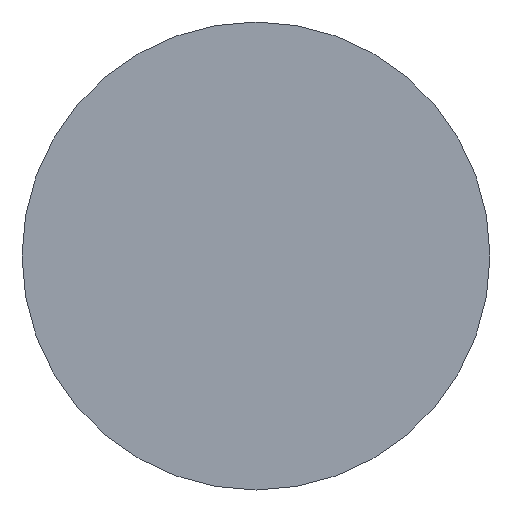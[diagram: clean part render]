
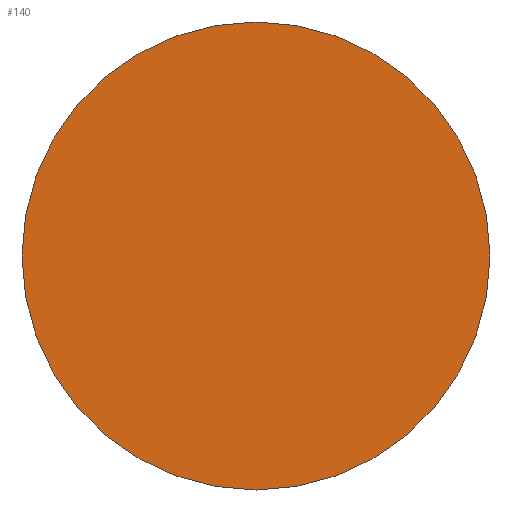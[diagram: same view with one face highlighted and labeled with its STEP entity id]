
A CAD part, front view. The second image highlights one B-rep face of the part: STEP entity #140.
In plain terms, the highlighted planar face has unit normal (0, -1, 0).
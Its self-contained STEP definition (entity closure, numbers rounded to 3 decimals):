
#31 = CYLINDRICAL_SURFACE('',#32,6.2);
#32 = AXIS2_PLACEMENT_3D('',#33,#34,#35);
#33 = CARTESIAN_POINT('',(-248.5,-108.5,33.));
#34 = DIRECTION('',(0.,1.,0.));
#35 = DIRECTION('',(0.,-0.,1.));
#56 = VERTEX_POINT('',#57);
#57 = CARTESIAN_POINT('',(-248.5,-108.5,39.2));
#78 = EDGE_CURVE('',#56,#56,#79,.T.);
#79 = SURFACE_CURVE('',#80,(#85,#92),.PCURVE_S1.);
#80 = CIRCLE('',#81,6.2);
#81 = AXIS2_PLACEMENT_3D('',#82,#83,#84);
#82 = CARTESIAN_POINT('',(-248.5,-108.5,33.));
#83 = DIRECTION('',(0.,1.,0.));
#84 = DIRECTION('',(0.,-0.,1.));
#85 = PCURVE('',#31,#86);
#86 = DEFINITIONAL_REPRESENTATION('',(#87),#91);
#87 = LINE('',#88,#89);
#88 = CARTESIAN_POINT('',(0.,0.));
#89 = VECTOR('',#90,1.);
#90 = DIRECTION('',(1.,0.));
#91 = ( GEOMETRIC_REPRESENTATION_CONTEXT(2) 
PARAMETRIC_REPRESENTATION_CONTEXT() REPRESENTATION_CONTEXT('2D SPACE',''
  ) );
#92 = PCURVE('',#93,#98);
#93 = PLANE('',#94);
#94 = AXIS2_PLACEMENT_3D('',#95,#96,#97);
#95 = CARTESIAN_POINT('',(-248.5,-108.5,33.));
#96 = DIRECTION('',(0.,1.,0.));
#97 = DIRECTION('',(0.,-0.,1.));
#98 = DEFINITIONAL_REPRESENTATION('',(#99),#103);
#99 = CIRCLE('',#100,6.2);
#100 = AXIS2_PLACEMENT_2D('',#101,#102);
#101 = CARTESIAN_POINT('',(0.,0.));
#102 = DIRECTION('',(1.,0.));
#103 = ( GEOMETRIC_REPRESENTATION_CONTEXT(2) 
PARAMETRIC_REPRESENTATION_CONTEXT() REPRESENTATION_CONTEXT('2D SPACE',''
  ) );
#140 = ADVANCED_FACE('',(#141),#93,.F.);
#141 = FACE_BOUND('',#142,.T.);
#142 = EDGE_LOOP('',(#143));
#143 = ORIENTED_EDGE('',*,*,#78,.F.);
